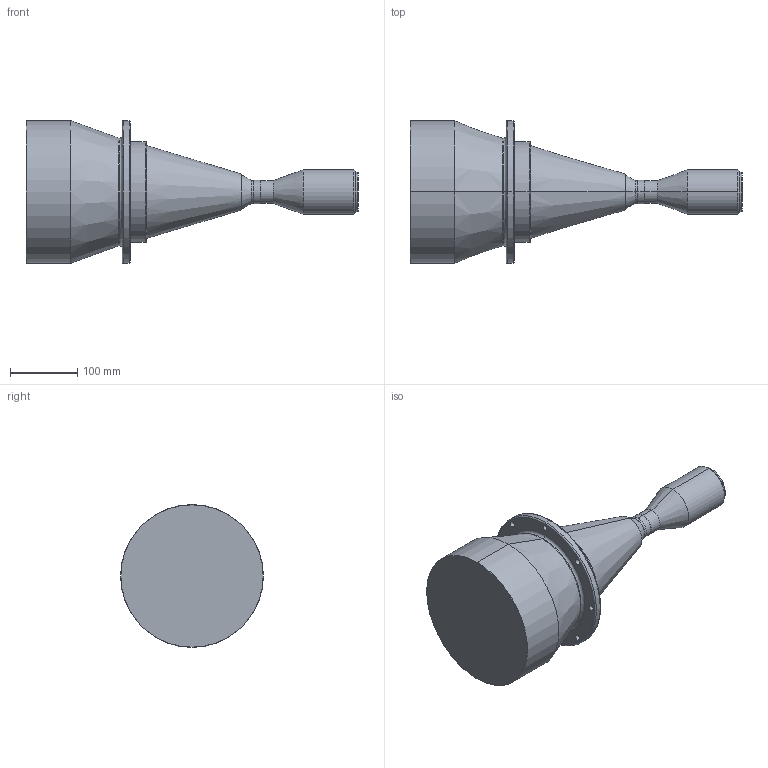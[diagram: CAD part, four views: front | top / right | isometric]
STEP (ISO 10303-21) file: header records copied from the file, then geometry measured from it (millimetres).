
FILE_DESCRIPTION (( 'STEP AP203' ), '1' );
FILE_NAME ('DTCM71M-170-M58-AL.STEP', '2019-11-19T08:21:38', ( 'Windows 蚚誧' ), ( '' ), 'SwSTEP 2.0', 'SolidWorks 2017', '' );
FILE_SCHEMA (( 'CONFIG_CONTROL_DESIGN' ));
Length unit declared in the file: millimetre
Products named in the file (1): DTCM71M-170-M58-AL
Bounding box: 493.1 x 212 x 212 mm (x, y, z)
Volume: 6731617.4 mm3; surface area: 258395.1 mm2
Topology: 1 solids, 1 shells, 70 faces, 154 edges, 94 vertices
Faces by surface type: cylinder 34, cone 14, torus 12, plane 10
Entity records: 2065 total; most frequent: DIRECTION 402, CARTESIAN_POINT 319, ORIENTED_EDGE 308, AXIS2_PLACEMENT_3D 177, EDGE_CURVE 154, CIRCLE 106, EDGE_LOOP 94, VERTEX_POINT 94
